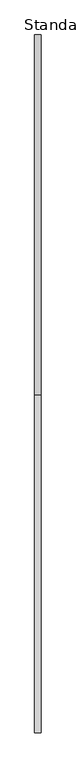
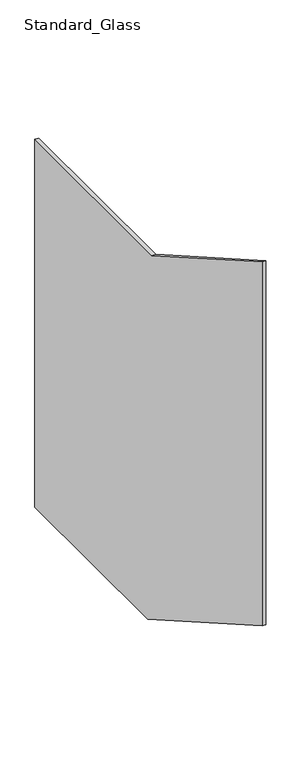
"""IFC4 building model written with IfcOpenShell, lengths in millimetres: railing geometry, Baluster-Landing-Panel-VIVA-VISIO-Upper : Standard_Glass."""

from ifc_helpers import new_model, si_unit, frame, origin, place, context, project, spatial, polyline, outline, extrude, source, transform, mapped, element, save


def standard_glass_22e67f8d(model_context):
    return source(origin(), model_context, "Body", "SweptSolid", [
        extrude(outline(polyline([(492.404401, 1086.485), (1015.5986657, 1086.485), (1015.5986657, 82.1007191), (512.062509, 82.1007191), (0.0, 374.65), (0.0, 1367.8032978), (492.404401, 1086.485)])), frame((31.6077292, 0.0, 0.0), z_axis=(1.0, 0.0, 0.0), x_axis=(0.0, 1.0, 0.0)), (0.0, 0.0, 1.0), 9.525),
    ])


if __name__ == "__main__":
    model = new_model("IFC4")
    model_context = context("Model", 3, world=origin())
    ifc_project = project(units=[si_unit("LENGTHUNIT", "METRE", prefix="MILLI")], contexts=[model_context])
    site = spatial("IfcSite", under=ifc_project)
    building = spatial("IfcBuilding", under=site)
    placement = place(None, origin())
    standard_glass_shape = standard_glass_22e67f8d(model_context)
    element("IfcRailing", 1, ObjectType="Baluster-Landing-Panel-VIVA-VISIO-Upper : Standard_Glass", at=placement, inside=building, context=model_context, shape_type="MappedRepresentation", body=[
        mapped(standard_glass_shape, transform((0.0, 0.0, 0.0), x_axis=(1.0, 0.0, 0.0), y_axis=(0.0, 1.0, 0.0), z_axis=(0.0, 0.0, 1.0))),
    ])
    save(model, "model.ifc")
